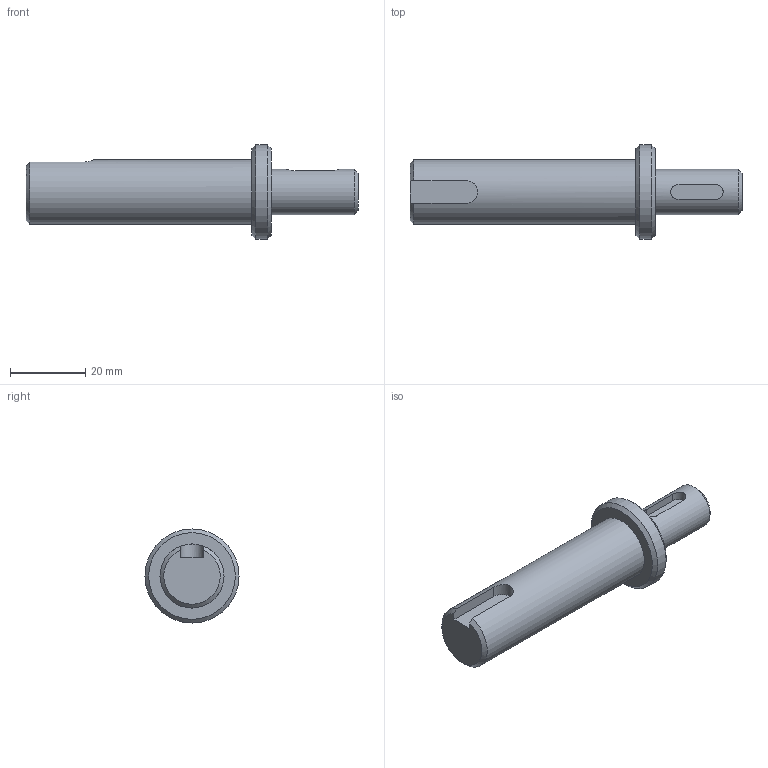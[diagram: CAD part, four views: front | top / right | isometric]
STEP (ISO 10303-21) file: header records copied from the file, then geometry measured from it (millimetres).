
FILE_DESCRIPTION(/* description */ (''),/* implementation_level */ '2;1');
FILE_NAME(/* name */ '',/* time_stamp */ '2024-08-02T13:14:13+09:00',/* author */ ('jhkim'),/* organization */ (''),/* preprocessor_version */ 'ST-DEVELOPER v20',/* originating_system */ 'Autodesk Inventor 2025',/* authorisation */ '');
FILE_SCHEMA (('AUTOMOTIVE_DESIGN { 1 0 10303 214 3 1 1 }'));
Length unit declared in the file: millimetre
Products named in the file (1): 서브축
Bounding box: 88.17 x 25 x 25 mm (x, y, z)
Volume: 18168.2 mm3; surface area: 5479.5 mm2
Topology: 1 solids, 1 shells, 20 faces, 48 edges, 33 vertices
Faces by surface type: plane 10, cylinder 6, cone 4
Full cylindrical faces by diameter (mm): 12 x1, 17 x1, 25 x1
Entity records: 676 total; most frequent: CARTESIAN_POINT 160, DIRECTION 99, ORIENTED_EDGE 96, EDGE_CURVE 48, AXIS2_PLACEMENT_3D 38, VERTEX_POINT 33, EDGE_LOOP 23, LINE 23
